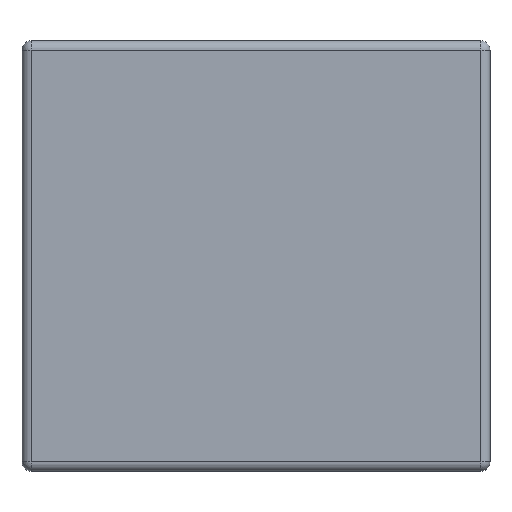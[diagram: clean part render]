
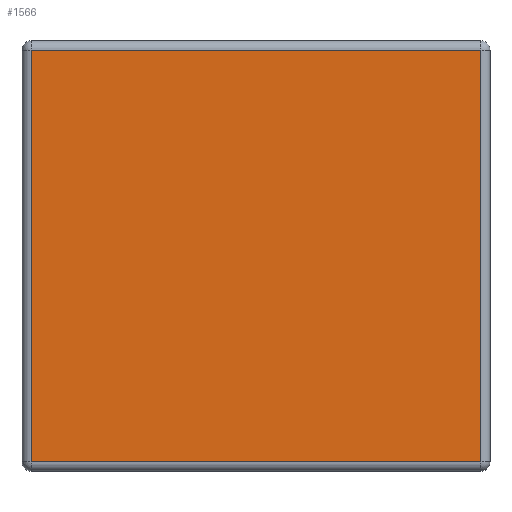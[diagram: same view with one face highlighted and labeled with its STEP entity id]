
A CAD part, front view. The second image highlights one B-rep face of the part: STEP entity #1566.
In plain terms, the highlighted planar face has unit normal (0, -1, 0).
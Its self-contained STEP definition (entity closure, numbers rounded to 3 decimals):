
#109=DIRECTION('',(0.,0.,1.));
#110=VECTOR('',#109,22.);
#111=CARTESIAN_POINT('',(-12.,0.,-11.));
#112=LINE('',#111,#110);
#518=DIRECTION('',(-1.,0.,0.));
#519=VECTOR('',#518,24.);
#520=CARTESIAN_POINT('',(12.,0.,-11.));
#521=LINE('',#520,#519);
#526=DIRECTION('',(0.,0.,-1.));
#527=VECTOR('',#526,22.);
#528=CARTESIAN_POINT('',(12.,0.,11.));
#529=LINE('',#528,#527);
#576=DIRECTION('',(1.,0.,0.));
#577=VECTOR('',#576,24.);
#578=CARTESIAN_POINT('',(-12.,0.,11.));
#579=LINE('',#578,#577);
#618=CARTESIAN_POINT('',(12.,0.,11.));
#620=VERTEX_POINT('',#618);
#622=CARTESIAN_POINT('',(-12.,0.,-11.));
#624=VERTEX_POINT('',#622);
#633=CARTESIAN_POINT('',(-12.,0.,11.));
#634=VERTEX_POINT('',#633);
#669=CARTESIAN_POINT('',(12.,0.,-11.));
#670=VERTEX_POINT('',#669);
#1553=CARTESIAN_POINT('',(0.,0.,0.));
#1554=DIRECTION('',(0.,1.,0.));
#1555=DIRECTION('',(0.,0.,1.));
#1556=AXIS2_PLACEMENT_3D('',#1553,#1554,#1555);
#1557=PLANE('',#1556);
#1559=ORIENTED_EDGE('',*,*,#1558,.T.);
#1560=ORIENTED_EDGE('',*,*,#1545,.T.);
#1561=ORIENTED_EDGE('',*,*,#936,.T.);
#1563=ORIENTED_EDGE('',*,*,#1562,.T.);
#1564=EDGE_LOOP('',(#1559,#1560,#1561,#1563));
#1565=FACE_OUTER_BOUND('',#1564,.F.);
#1566=ADVANCED_FACE('',(#1565),#1557,.F.);
#936=EDGE_CURVE('',#624,#634,#112,.T.);
#1545=EDGE_CURVE('',#670,#624,#521,.T.);
#1558=EDGE_CURVE('',#620,#670,#529,.T.);
#1562=EDGE_CURVE('',#634,#620,#579,.T.);
